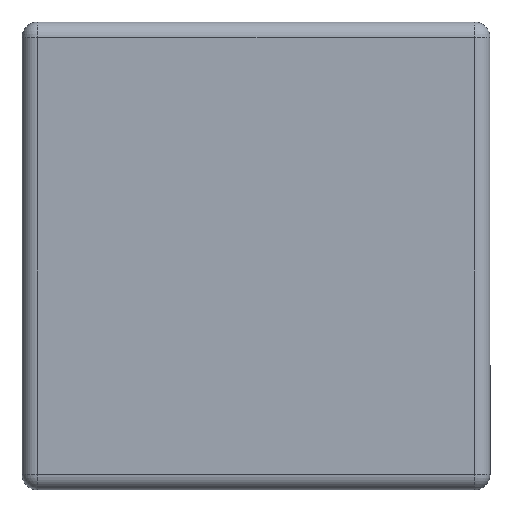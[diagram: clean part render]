
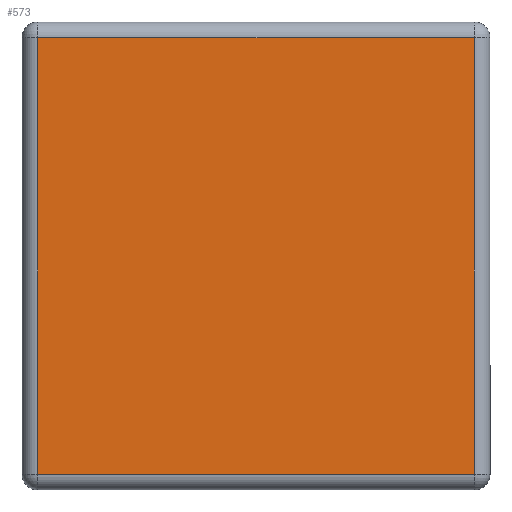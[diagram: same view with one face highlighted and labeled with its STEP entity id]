
A CAD part, top view. The second image highlights one B-rep face of the part: STEP entity #573.
In plain terms, the highlighted planar face has unit normal (0, 0, 1).
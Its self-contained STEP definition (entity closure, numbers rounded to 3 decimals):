
#39 = CARTESIAN_POINT ( 'NONE',  ( 42., -42., 3. ) ) ;
#43 = CARTESIAN_POINT ( 'NONE',  ( 42., -42., 3. ) ) ;
#46 = DIRECTION ( 'NONE',  ( 1., 0., 0. ) ) ;
#50 = VECTOR ( 'NONE', #46, 1000. ) ;
#60 = VERTEX_POINT ( 'NONE', #192 ) ;
#79 = LINE ( 'NONE', #668, #237 ) ;
#83 = EDGE_CURVE ( 'NONE', #425, #60, #79, .T. ) ;
#128 = DIRECTION ( 'NONE',  ( 0., 0., 1. ) ) ;
#160 = CARTESIAN_POINT ( 'NONE',  ( -42., -42., 3. ) ) ;
#192 = CARTESIAN_POINT ( 'NONE',  ( 42., 42., 3. ) ) ;
#218 = EDGE_LOOP ( 'NONE', ( #291, #488, #590, #328 ) ) ;
#237 = VECTOR ( 'NONE', #448, 1000. ) ;
#242 = FACE_OUTER_BOUND ( 'NONE', #218, .T. ) ;
#291 = ORIENTED_EDGE ( 'NONE', *, *, #83, .T. ) ;
#328 = ORIENTED_EDGE ( 'NONE', *, *, #447, .T. ) ;
#331 = VECTOR ( 'NONE', #572, 1000. ) ;
#336 = LINE ( 'NONE', #43, #50 ) ;
#340 = CARTESIAN_POINT ( 'NONE',  ( -42., 42., 3. ) ) ;
#389 = VERTEX_POINT ( 'NONE', #576 ) ;
#417 = EDGE_CURVE ( 'NONE', #389, #440, #562, .T. ) ;
#425 = VERTEX_POINT ( 'NONE', #39 ) ;
#439 = EDGE_CURVE ( 'NONE', #60, #389, #501, .T. ) ;
#440 = VERTEX_POINT ( 'NONE', #721 ) ;
#447 = EDGE_CURVE ( 'NONE', #440, #425, #336, .T. ) ;
#448 = DIRECTION ( 'NONE',  ( 0., 1., 0. ) ) ;
#471 = PLANE ( 'NONE',  #604 ) ;
#488 = ORIENTED_EDGE ( 'NONE', *, *, #439, .T. ) ;
#501 = LINE ( 'NONE', #340, #331 ) ;
#510 = VECTOR ( 'NONE', #614, 1000. ) ;
#562 = LINE ( 'NONE', #160, #510 ) ;
#572 = DIRECTION ( 'NONE',  ( -1., 0., 0. ) ) ;
#573 = ADVANCED_FACE ( 'NONE', ( #242 ), #471, .T. ) ;
#576 = CARTESIAN_POINT ( 'NONE',  ( -42., 42., 3. ) ) ;
#586 = DIRECTION ( 'NONE',  ( 1., 0., 0. ) ) ;
#590 = ORIENTED_EDGE ( 'NONE', *, *, #417, .T. ) ;
#604 = AXIS2_PLACEMENT_3D ( 'NONE', #696, #128, #586 ) ;
#614 = DIRECTION ( 'NONE',  ( 0., -1., 0. ) ) ;
#668 = CARTESIAN_POINT ( 'NONE',  ( 42., 42., 3. ) ) ;
#696 = CARTESIAN_POINT ( 'NONE',  ( 42., 42., 3. ) ) ;
#721 = CARTESIAN_POINT ( 'NONE',  ( -42., -42., 3. ) ) ;
